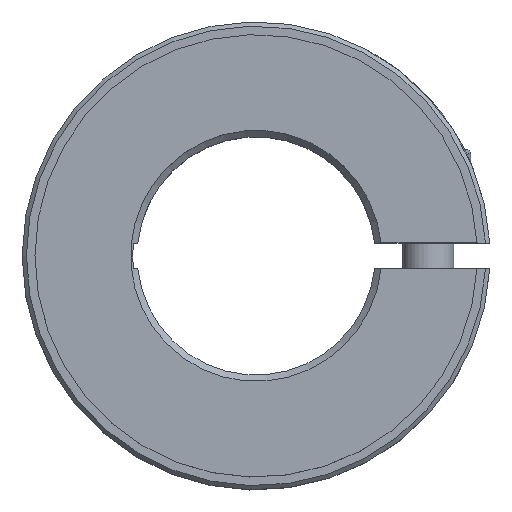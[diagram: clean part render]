
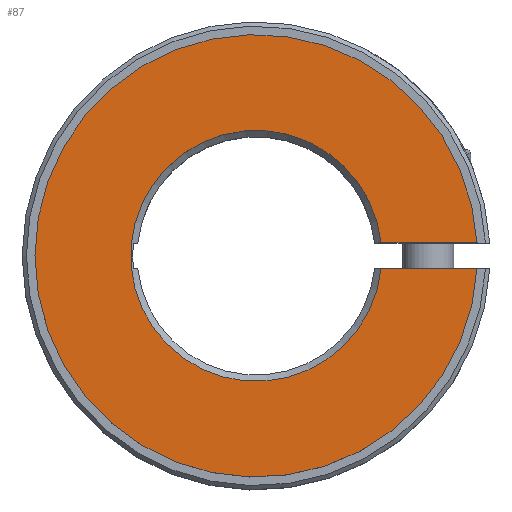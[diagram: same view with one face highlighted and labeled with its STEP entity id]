
A CAD part, top view. The second image highlights one B-rep face of the part: STEP entity #87.
In plain terms, the highlighted planar face has unit normal (0, 0, 1).
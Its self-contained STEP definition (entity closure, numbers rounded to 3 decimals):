
#87 = ADVANCED_FACE( '', ( #138 ), #139, .T. );
#138 = FACE_OUTER_BOUND( '', #221, .T. );
#139 = PLANE( '', #222 );
#221 = EDGE_LOOP( '', ( #379, #380, #381, #382 ) );
#222 = AXIS2_PLACEMENT_3D( '', #383, #384, #385 );
#379 = ORIENTED_EDGE( '', *, *, #599, .F. );
#380 = ORIENTED_EDGE( '', *, *, #587, .T. );
#381 = ORIENTED_EDGE( '', *, *, #600, .T. );
#382 = ORIENTED_EDGE( '', *, *, #592, .T. );
#383 = CARTESIAN_POINT( '', ( 0., 26., 10.5 ) );
#384 = DIRECTION( '', ( 0., 0., 1. ) );
#385 = DIRECTION( '', ( 1., 0., 0. ) );
#587 = EDGE_CURVE( '', #701, #699, #702, .T. );
#592 = EDGE_CURVE( '', #710, #708, #711, .T. );
#599 = EDGE_CURVE( '', #701, #708, #720, .T. );
#600 = EDGE_CURVE( '', #699, #710, #721, .T. );
#699 = VERTEX_POINT( '', #966 );
#701 = VERTEX_POINT( '', #969 );
#702 = LINE( '', #970, #971 );
#708 = VERTEX_POINT( '', #980 );
#710 = VERTEX_POINT( '', #983 );
#711 = LINE( '', #984, #985 );
#720 = CIRCLE( '', #999, 26. );
#721 = CIRCLE( '', #1000, 14.75 );
#966 = CARTESIAN_POINT( '', ( 14.67, -1.53, 10.5 ) );
#969 = CARTESIAN_POINT( '', ( 25.955, -1.53, 10.5 ) );
#970 = CARTESIAN_POINT( '', ( 0., -1.53, 10.5 ) );
#971 = VECTOR( '', #1136, 1000. );
#980 = CARTESIAN_POINT( '', ( 25.955, 1.53, 10.5 ) );
#983 = CARTESIAN_POINT( '', ( 14.67, 1.53, 10.5 ) );
#984 = CARTESIAN_POINT( '', ( 0., 1.53, 10.5 ) );
#985 = VECTOR( '', #1141, 1000. );
#999 = AXIS2_PLACEMENT_3D( '', #1153, #1154, #1155 );
#1000 = AXIS2_PLACEMENT_3D( '', #1156, #1157, #1158 );
#1136 = DIRECTION( '', ( -1., 0., 0. ) );
#1141 = DIRECTION( '', ( 1., 0., 0. ) );
#1153 = CARTESIAN_POINT( '', ( 0., 0., 10.5 ) );
#1154 = DIRECTION( '', ( 0., 0., -1. ) );
#1155 = DIRECTION( '', ( -1., 0., 0. ) );
#1156 = CARTESIAN_POINT( '', ( 0., 0., 10.5 ) );
#1157 = DIRECTION( '', ( 0., 0., -1. ) );
#1158 = DIRECTION( '', ( -1., 0., 0. ) );
